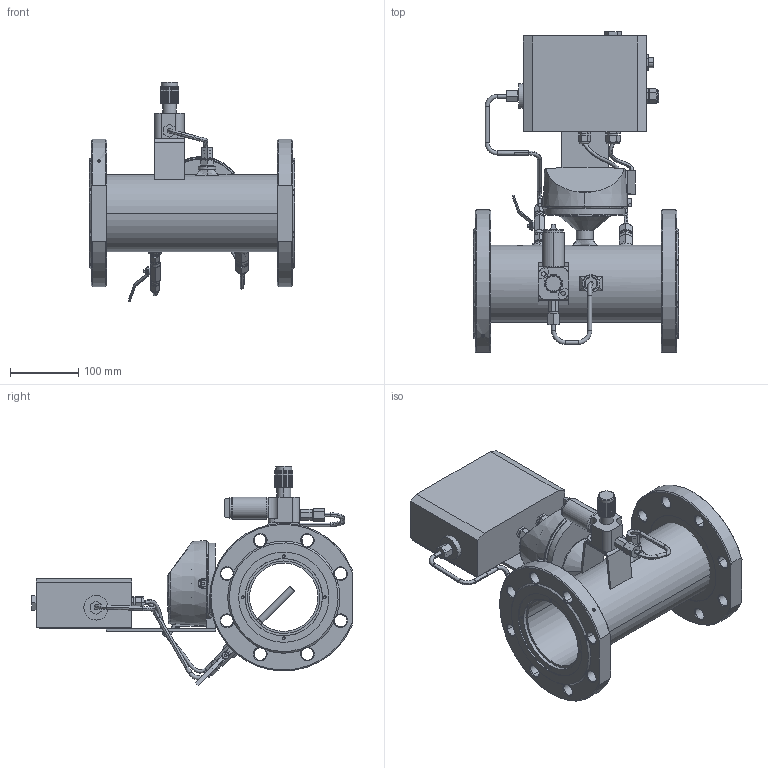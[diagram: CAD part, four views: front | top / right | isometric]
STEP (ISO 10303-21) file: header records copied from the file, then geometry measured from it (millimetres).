
FILE_DESCRIPTION((''),'2;1');
FILE_NAME('SG_SUPERFLOW_DY100_L_ASM','2020-12-23T',('solovki'),(''),'CREO PARAMETRIC BY PTC INC, 2018360','CREO PARAMETRIC BY PTC INC, 2018360','');
FILE_SCHEMA(('AUTOMOTIVE_DESIGN { 1 0 10303 214 1 1 1 1 }'));
Length unit declared in the file: millimetre
Products named in the file (29): 603_AF6; 604_AF2; 605_AF2; 606_AF1; 607_AF1; 608_AF2; 608_AF3; 609; 602_AF1_ASM; 610; 611; 612; 613; 601_AF0_ASM; 616; 617; 619; 620; 621; 622; 623; 618_ASM; 624; 625; 626; 627; 628; 629; SG_SUPERFLOW_DY100_L_ASM
Assembly tree (31 placements, depth 4):
  SG_SUPERFLOW_DY100_L_ASM
    601_AF0_ASM
      602_AF1_ASM
        603_AF6
        604_AF2
        605_AF2
        606_AF1
        607_AF1
        608_AF2
        608_AF3
        609
      610
      611  x2
      612
      613
    616
    617
    618_ASM
      619
      620
      621
      622
      623  x2
    624
    625
    626
    627
    611
    628
    629
Bounding box: 300 x 468.5 x 321.19 mm (x, y, z)
Volume: 4545843.9 mm3; surface area: 766895.5 mm2
Topology: 28 solids, 58 shells, 1335 faces, 3274 edges, 2059 vertices
Faces by surface type: plane 526, cylinder 492, cone 203, torus 49, bspline 42, sphere 22, extrusion 1
Entity records: 62521 total; most frequent: CARTESIAN_POINT 11769, DIRECTION 6697, ORIENTED_EDGE 6050, PRESENTATION_STYLE_ASSIGNMENT 4414, STYLED_ITEM 4414, CURVE_STYLE 3099, EDGE_CURVE 3098, AXIS2_PLACEMENT_3D 2591
